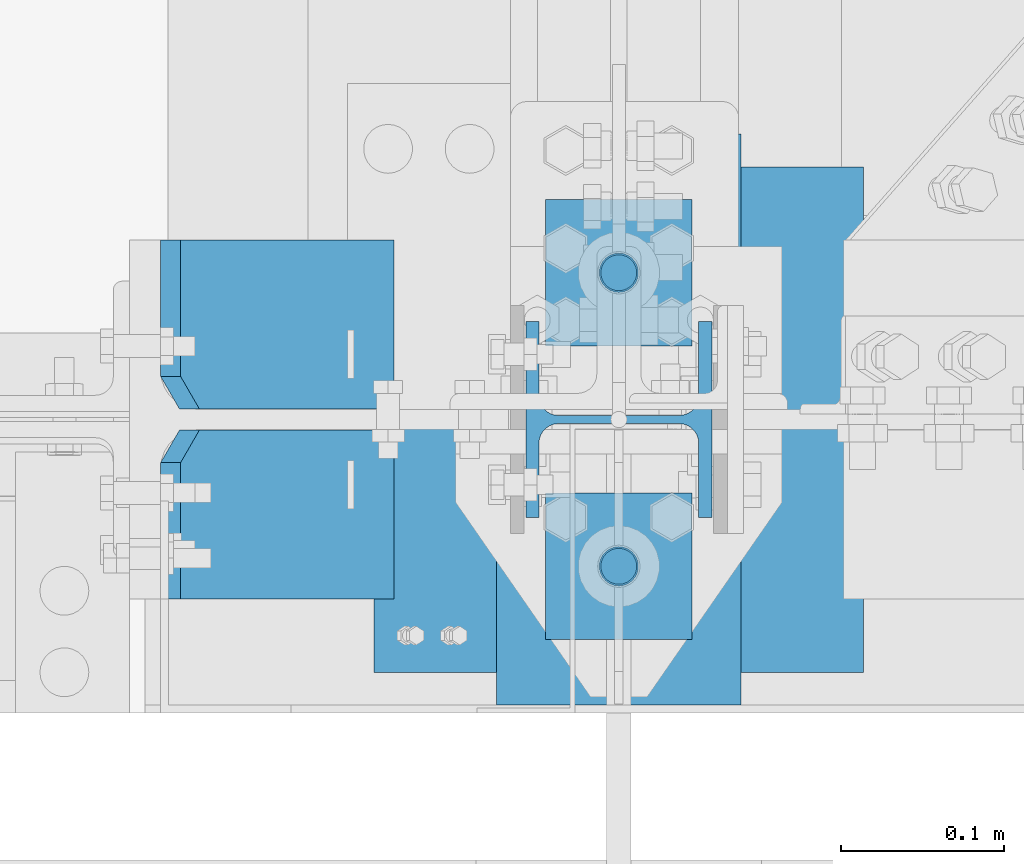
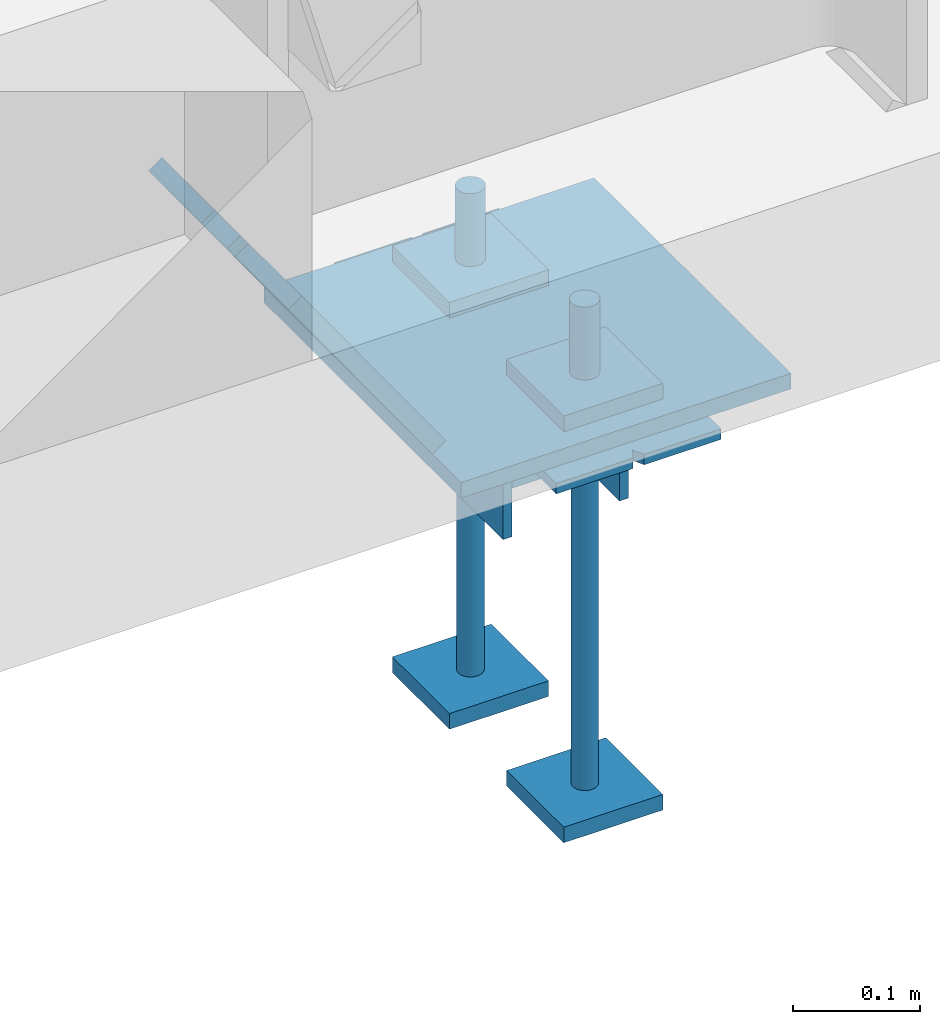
# One storey, part 69 of 362: 11 beams, 2 members, 2 elements without a shape of their own.
"""IFC2X3 building model written with IfcOpenShell, lengths in millimetres."""

from ifc_helpers import new_model, si_unit, frame, origin_with_axes, origin_2d_with_axis, place, context, subcontext, project, spatial, polyline, rectangle, circle, i_section, outline, extrude, boolean, material, type_object, element, aggregate, save


model = new_model("IFC2X3")

# Units and contexts
model_context = context("Model", 3, precision=1e-05, world=origin_with_axes())
body_context = subcontext(model_context, "Body", "Model", "MODEL_VIEW")
ifc_project = project(units=[si_unit("LENGTHUNIT", "METRE", prefix="MILLI"), si_unit("AREAUNIT", "SQUARE_METRE"), si_unit("VOLUMEUNIT", "CUBIC_METRE"), si_unit("MASSUNIT", "GRAM", prefix="KILO"), si_unit("TIMEUNIT", "SECOND"), si_unit("PLANEANGLEUNIT", "RADIAN"), si_unit("SOLIDANGLEUNIT", "STERADIAN"), si_unit("THERMODYNAMICTEMPERATUREUNIT", "DEGREE_CELSIUS"), si_unit("LUMINOUSINTENSITYUNIT", "LUMEN")], contexts=[model_context])

# Site, building, storey
site_placement = place(None, origin_with_axes())
site = spatial("IfcSite", under=ifc_project, at=site_placement, Name="Undefined", CompositionType="ELEMENT")
building_placement = place(site_placement, origin_with_axes())
building = spatial("IfcBuilding", under=site, at=building_placement, Name="Undefined", CompositionType="ELEMENT")
storey_placement = place(building_placement, origin_with_axes())
storey = spatial("IfcBuildingStorey", under=building, at=storey_placement, Name="Undefined", CompositionType="ELEMENT", Elevation=0.0)

# Assembly, beams
assembly_1_placement = place(storey_placement, origin_with_axes())
assembly_1 = element("IfcElementAssembly", 1, at=assembly_1_placement, inside=storey, Name="PRESCELLEMENT PS24", AssemblyPlace="NOTDEFINED", PredefinedType="NOTDEFINED")
ifc_material_1 = material(Name="Undefined/S235-E24")
beam_type_1 = type_object("IfcBeamType", Name="PL15*90", PredefinedType="NOTDEFINED")
beam_1_placement = place(assembly_1_placement, frame((12725.0, -45.0028495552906, -177.5), z_axis=(0.0, 0.0, 1.0), x_axis=(-1.0, 0.0, 0.0)))
beam_1 = element("IfcBeam", 2, at=beam_1_placement, type_object=beam_type_1, material=ifc_material_1, Name="PLAQUETTE", ObjectType="PL15*90", context=body_context, shape_type="SweptSolid", body=[
    extrude(outline(polyline([(0.0, 0.0), (90.0, 0.0), (90.0, 90.0), (0.0, 90.0), (0.0, 0.0)])), frame((0.0, 0.0, -7.5), z_axis=(0.0, 0.0, 1.0), x_axis=(1.0, 0.0, 0.0)), (0.0, 0.0, 1.0), 15.0),
])
beam_2_placement = place(assembly_1_placement, frame((12725.0, 134.997150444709, -177.5), z_axis=(0.0, 0.0, 1.0), x_axis=(-1.0, 0.0, 0.0)))
beam_2 = element("IfcBeam", 3, at=beam_2_placement, type_object=beam_type_1, material=ifc_material_1, Name="PLAQUETTE", ObjectType="PL15*90", context=body_context, shape_type="SweptSolid", body=[
    extrude(outline(polyline([(0.0, 0.0), (90.0, 0.0), (90.0, 90.0), (0.0, 90.0), (0.0, 0.0)])), frame((0.0, 0.0, -7.5), z_axis=(0.0, 0.0, 1.0), x_axis=(1.0, 0.0, 0.0)), (0.0, 0.0, 1.0), 15.0),
])
beam_3_placement = place(assembly_1_placement, frame((12725.0, -45.0028495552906, -572.5), z_axis=(0.0, 0.0, 1.0), x_axis=(-1.0, 0.0, 0.0)))
beam_3 = element("IfcBeam", 4, at=beam_3_placement, type_object=beam_type_1, material=ifc_material_1, Name="PLAQUETTE", ObjectType="PL15*90", context=body_context, shape_type="SweptSolid", body=[
    extrude(outline(polyline([(0.0, 0.0), (90.0, 0.0), (90.0, 90.0), (0.0, 90.0), (0.0, 0.0)])), frame((0.0, 0.0, -7.5), z_axis=(0.0, 0.0, 1.0), x_axis=(1.0, 0.0, 0.0)), (0.0, 0.0, 1.0), 15.0),
])
beam_4_placement = place(assembly_1_placement, frame((12725.0, 134.997150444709, -572.5), z_axis=(0.0, 0.0, 1.0), x_axis=(-1.0, 0.0, 0.0)))
beam_4 = element("IfcBeam", 5, at=beam_4_placement, type_object=beam_type_1, material=ifc_material_1, Name="PLAQUETTE", ObjectType="PL15*90", context=body_context, shape_type="SweptSolid", body=[
    extrude(outline(polyline([(0.0, 0.0), (90.0, 0.0), (90.0, 90.0), (0.0, 90.0), (0.0, 0.0)])), frame((0.0, 0.0, -7.5), z_axis=(0.0, 0.0, 1.0), x_axis=(1.0, 0.0, 0.0)), (0.0, 0.0, 1.0), 15.0),
])
beam_type_2 = type_object("IfcBeamType", Name="D24", PredefinedType="NOTDEFINED")
beam_5_placement = place(assembly_1_placement, frame((12680.0, -90.0028495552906, -100.0), z_axis=(-1.0, 0.0, 0.0), x_axis=(0.0, 0.0, -1.0)))
beam_5 = element("IfcBeam", 6, at=beam_5_placement, type_object=beam_type_2, material=ifc_material_1, Name="TIGE D'ANCRAGE", ObjectType="D24", context=body_context, shape_type="SweptSolid", body=[
    extrude(circle(Radius=12.0, at=origin_2d_with_axis()), frame((150.0, 0.0, 0.0), z_axis=(-1.0, 0.0, 0.0), x_axis=(0.0, -1.0, 0.0)), (0.0, 0.0, 1.0), 150.0),
])
beam_6_placement = place(assembly_1_placement, frame((12680.0, 89.9971504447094, -100.0), z_axis=(-1.0, 0.0, 0.0), x_axis=(0.0, 0.0, -1.0)))
beam_6 = element("IfcBeam", 7, at=beam_6_placement, type_object=beam_type_2, material=ifc_material_1, Name="TIGE D'ANCRAGE", ObjectType="D24", context=body_context, shape_type="SweptSolid", body=[
    extrude(circle(Radius=12.0, at=origin_2d_with_axis()), frame((150.0, 0.0, 0.0), z_axis=(-1.0, 0.0, 0.0), x_axis=(0.0, -1.0, 0.0)), (0.0, 0.0, 1.0), 150.0),
])
beam_type_3 = type_object("IfcBeamType", Name="D22", PredefinedType="NOTDEFINED")
beam_7_placement = place(assembly_1_placement, frame((12680.0, -90.0028495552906, -250.0), z_axis=(-1.0, 0.0, 0.0), x_axis=(0.0, 0.0, -1.0)))
beam_7 = element("IfcBeam", 8, at=beam_7_placement, type_object=beam_type_3, material=ifc_material_1, Name="TIGE D'ANCRAGE", ObjectType="D22", context=body_context, shape_type="SweptSolid", body=[
    extrude(circle(Radius=11.0, at=origin_2d_with_axis()), frame((350.0, 0.0, 0.0), z_axis=(-1.0, 0.0, 0.0), x_axis=(0.0, -1.0, 0.0)), (0.0, 0.0, 1.0), 350.0),
])
beam_8_placement = place(assembly_1_placement, frame((12680.0, 89.9971504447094, -250.0), z_axis=(-1.0, 0.0, 0.0), x_axis=(0.0, 0.0, -1.0)))
beam_8 = element("IfcBeam", 9, at=beam_8_placement, type_object=beam_type_3, material=ifc_material_1, Name="TIGE D'ANCRAGE", ObjectType="D22", context=body_context, shape_type="SweptSolid", body=[
    extrude(circle(Radius=11.0, at=origin_2d_with_axis()), frame((350.0, 0.0, 0.0), z_axis=(-1.0, 0.0, 0.0), x_axis=(0.0, -1.0, 0.0)), (0.0, 0.0, 1.0), 350.0),
])
beam_type_4 = type_object("IfcBeamType", Name="PL10*150", PredefinedType="NOTDEFINED")
beam_9_placement = place(assembly_1_placement, frame((12680.0, 175.0, -205.0), z_axis=(1.0, 0.0, 0.0), x_axis=(0.0, -1.0, 0.0)))
beam_9 = element("IfcBeam", 10, at=beam_9_placement, type_object=beam_type_4, material=ifc_material_1, Name="PRESCELLEMENT PS24", ObjectType="PL10*150", context=body_context, shape_type="CSG", body=[
    boolean("DIFFERENCE", boolean("DIFFERENCE", boolean("DIFFERENCE", boolean("DIFFERENCE", extrude(rectangle(XDim=10.0, YDim=150.0, at=origin_2d_with_axis()), frame((350.0, 0.0, 0.0), z_axis=(-1.0, 0.0, 0.0), x_axis=(0.0, -1.0, 0.0)), (0.0, 0.0, 1.0), 350.0), extrude(outline(polyline([(0.0, 0.0), (11.1803398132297, 1.2732925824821e-11), (4.47213602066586, 8.94427204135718), (0.0, 0.0)])), frame((0.0, 7.5, -5.0), z_axis=(0.0, -1.0, 0.0), x_axis=(0.894427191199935, 0.0, 0.44721359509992)), (0.0, 0.0, 1.0), 15.0)), extrude(outline(polyline([(0.0, 0.0), (11.1803398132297, 1.2732925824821e-11), (4.47213602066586, 8.94427204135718), (0.0, 0.0)])), frame((180.0, 7.5, -75.0), z_axis=(0.0, -1.0, 0.0), x_axis=(-0.447213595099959, 0.0, 0.894427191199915)), (0.0, 0.0, 1.0), 15.0)), extrude(outline(polyline([(0.0, 0.0), (11.1803398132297, 1.2732925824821e-11), (6.70820379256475, 8.94427204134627), (0.0, 0.0)])), frame((340.0, 7.5, 0.0), z_axis=(0.0, -1.0, 0.0), x_axis=(0.894427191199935, 0.0, -0.44721359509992)), (0.0, 0.0, 1.0), 15.0)), extrude(outline(polyline([(0.0, 0.0), (11.1803398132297, 1.2732925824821e-11), (4.47213602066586, 8.94427204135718), (0.0, 0.0)])), frame((170.0, 7.5, 75.0), z_axis=(0.0, -1.0, 0.0), x_axis=(0.447213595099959, 0.0, -0.894427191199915)), (0.0, 0.0, 1.0), 15.0)),
])
ifc_material_2 = material(Name="Undefined/S275-E28")
beam_type_5 = type_object("IfcBeamType", Name="HEA120", PredefinedType="NOTDEFINED")
beam_10_placement = place(assembly_1_placement, frame((12679.99999991, 0.0, -210.0), z_axis=(-1.0, 0.0, 0.0), x_axis=(0.0, 0.0, -1.0)))
beam_10 = element("IfcBeam", 11, at=beam_10_placement, type_object=beam_type_5, material=ifc_material_2, Name="BECHE", ObjectType="HEA120", context=body_context, shape_type="SweptSolid", body=[
    extrude(i_section(OverallWidth=120.0, OverallDepth=114.0, WebThickness=5.0, FlangeThickness=8.0, FilletRadius=12.0, at=origin_2d_with_axis()), frame((120.0, 0.0, 0.0), z_axis=(-1.0, 0.0, 0.0), x_axis=(0.0, -1.0, 0.0)), (0.0, 0.0, 1.0), 120.0),
])
aggregate(assembly_1, [beam_10, beam_1, beam_2, beam_3, beam_4, beam_5, beam_7, beam_6, beam_8, beam_9])

# Assembly, members, beam
assembly_2_placement = place(storey_placement, origin_with_axes())
assembly_2 = element("IfcElementAssembly", 12, at=assembly_2_placement, inside=storey, Name="POTEAU", AssemblyPlace="NOTDEFINED", PredefinedType="NOTDEFINED")
member_type = type_object("IfcMemberType", Name="PL15*103.5", PredefinedType="NOTDEFINED")
member_1_placement = place(assembly_2_placement, frame((12405.1180011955, 58.25, 4.33427348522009), z_axis=(0.0, 1.0, 0.0), x_axis=(0.57790313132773, 0.0, -0.816105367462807)))
member_1 = element("IfcMember", 13, at=member_1_placement, type_object=member_type, material=ifc_material_1, Name="PLATINE", ObjectType="PL15*103.5", context=body_context, shape_type="CSG", body=[
    boolean("DIFFERENCE", extrude(rectangle(XDim=15.0, YDim=103.5, at=origin_2d_with_axis()), frame((226.686414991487, 0.0, 0.0), z_axis=(-1.0, 0.0, 0.0), x_axis=(0.0, -1.0, 0.0)), (0.0, 0.0, 1.0), 226.69), extrude(outline(polyline([(0.0, 0.0), (19.9999999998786, -3.63797880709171e-12), (19.9999999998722, 19.9999999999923), (0.0, 0.0)])), frame((20.0000000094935, -10.4999999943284, -51.75), z_axis=(0.0, 1.0, 0.0), x_axis=(-1.0, 0.0, 0.0)), (0.0, 0.0, 1.0), 21.0)),
])
member_2_placement = place(assembly_2_placement, frame((12405.1180011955, -58.25, 4.33427348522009), z_axis=(0.0, 1.0, 0.0), x_axis=(0.57790313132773, 0.0, -0.816105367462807)))
member_2 = element("IfcMember", 14, at=member_2_placement, type_object=member_type, material=ifc_material_1, Name="PLATINE", ObjectType="PL15*103.5", context=body_context, shape_type="CSG", body=[
    boolean("DIFFERENCE", extrude(rectangle(XDim=15.0, YDim=103.5, at=origin_2d_with_axis()), frame((226.686414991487, 0.0, 0.0), z_axis=(-1.0, 0.0, 0.0), x_axis=(0.0, -1.0, 0.0)), (0.0, 0.0, 1.0), 226.69), extrude(outline(polyline([(0.0, 0.0), (28.2842712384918, -5.68070390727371e-09), (14.1421356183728, 14.1421356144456), (0.0, 0.0)])), frame((19.9999999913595, -10.4999999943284, 51.7500000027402), z_axis=(0.0, 1.0, 0.0), x_axis=(-0.707106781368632, 1.08068498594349e-10, -0.707106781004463)), (0.0, 0.0, 1.0), 21.0)),
])
beam_type_6 = type_object("IfcBeamType", Name="PL15*300", PredefinedType="NOTDEFINED")
beam_11_placement = place(assembly_2_placement, frame((12680.0, 154.997150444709, -192.5), z_axis=(1.0, 0.0, 0.0), x_axis=(0.0, -1.0, 0.0)))
beam_11 = element("IfcBeam", 15, at=beam_11_placement, type_object=beam_type_6, material=ifc_material_1, Name="PLATINE", ObjectType="PL15*300", context=body_context, shape_type="SweptSolid", body=[
    extrude(rectangle(XDim=15.0, YDim=300.0, at=origin_2d_with_axis()), frame((310.0, 0.0, 0.0), z_axis=(-1.0, 0.0, 0.0), x_axis=(0.0, -1.0, 0.0)), (0.0, 0.0, 1.0), 310.0),
])
aggregate(assembly_2, [member_1, member_2, beam_11])

save(model, "model.ifc")
